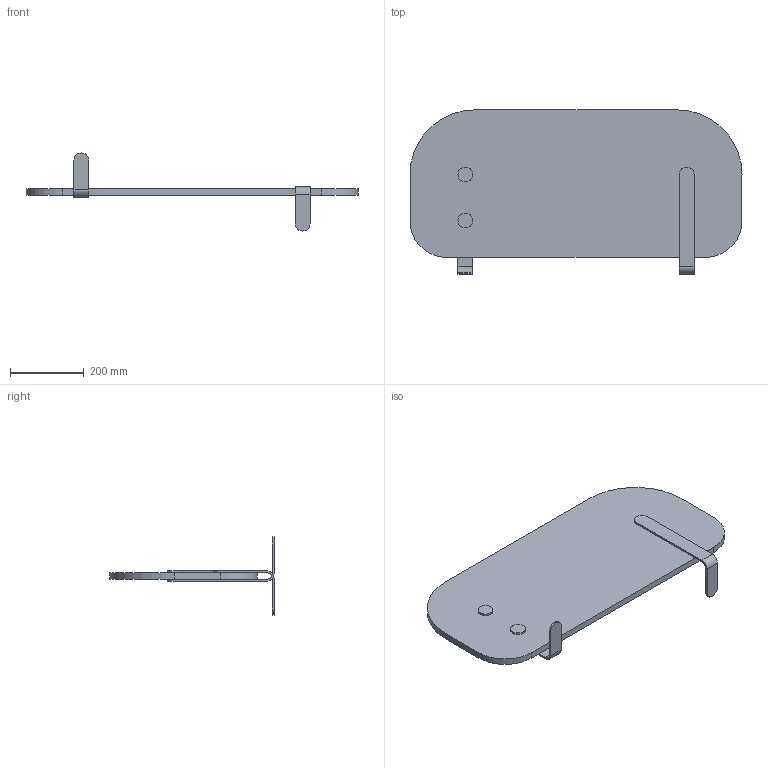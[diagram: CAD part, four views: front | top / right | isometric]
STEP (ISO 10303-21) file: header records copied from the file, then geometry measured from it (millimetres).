
FILE_DESCRIPTION (( 'STEP AP214' ), '1' );
FILE_NAME ('NIK_YM_SMALL.STEP', '2021-11-29T08:50:24', ( '' ), ( '' ), 'SwSTEP 2.0', 'SolidWorks 2019', '' );
FILE_SCHEMA (( 'AUTOMOTIVE_DESIGN' ));
Length unit declared in the file: millimetre
Products named in the file (8): NIK_SUP_YM; TORNILLOS15; CASQUILLO_ROSCADO18; NIK_YM_SMALL; Pieza18^NIK_YM_SMALL; YM_SMALL; NIK_SOP_YM_01
Assembly tree (13 placements, depth 3):
  NIK_YM_SMALL
    YM_SMALL
    NIK_SUP_YM
      NIK_SOP_YM_01
      CASQUILLO_ROSCADO18  x2
    NIK_SUP_YM
      NIK_SOP_YM_01
      CASQUILLO_ROSCADO18  x2
    TORNILLOS15  x4
  Pieza18^NIK_YM_SMALL
Bounding box: 900 x 445 x 212 mm (x, y, z)
Volume: 6343317.9 mm3; surface area: 822497.9 mm2
Topology: 11 solids, 11 shells, 232 faces, 586 edges, 380 vertices
Faces by surface type: cylinder 170, plane 50, bspline 12
Entity records: 4923 total; most frequent: CARTESIAN_POINT 2843, ORIENTED_EDGE 396, DIRECTION 371, EDGE_CURVE 198, AXIS2_PLACEMENT_3D 143, VERTEX_POINT 128, EDGE_LOOP 90, VECTOR 85
